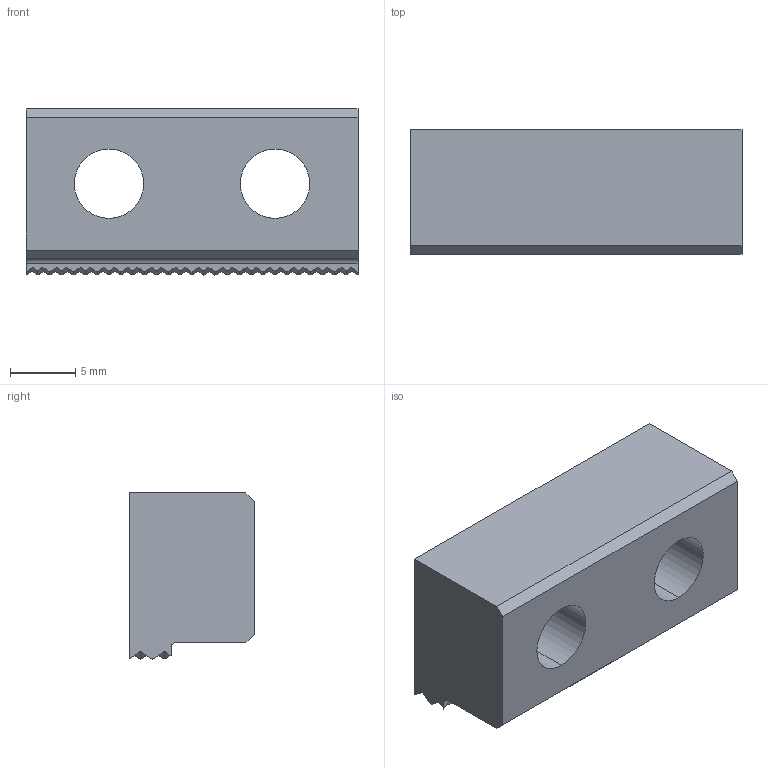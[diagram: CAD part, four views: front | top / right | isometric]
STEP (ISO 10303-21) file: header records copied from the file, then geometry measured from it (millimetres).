
FILE_DESCRIPTION (( 'STEP AP203' ), '1' );
FILE_NAME ('05-0505.STEP', '2021-07-19T17:20:37', ( '' ), ( '' ), 'SwSTEP 2.0', 'SolidWorks 2020', '' );
FILE_SCHEMA (( 'CONFIG_CONTROL_DESIGN' ));
Length unit declared in the file: inch
Products named in the file (1): 05-0505
Bounding box: 25.4 x 9.53 x 12.7 mm (x, y, z)
Volume: 1842.2 mm3; surface area: 1719.9 mm2
Topology: 1 solids, 1 shells, 287 faces, 641 edges, 358 vertices
Faces by surface type: plane 278, cylinder 9
Entity records: 7616 total; most frequent: CARTESIAN_POINT 1287, ORIENTED_EDGE 1282, DIRECTION 1235, EDGE_CURVE 641, VECTOR 623, LINE 623, VERTEX_POINT 358, AXIS2_PLACEMENT_3D 306
